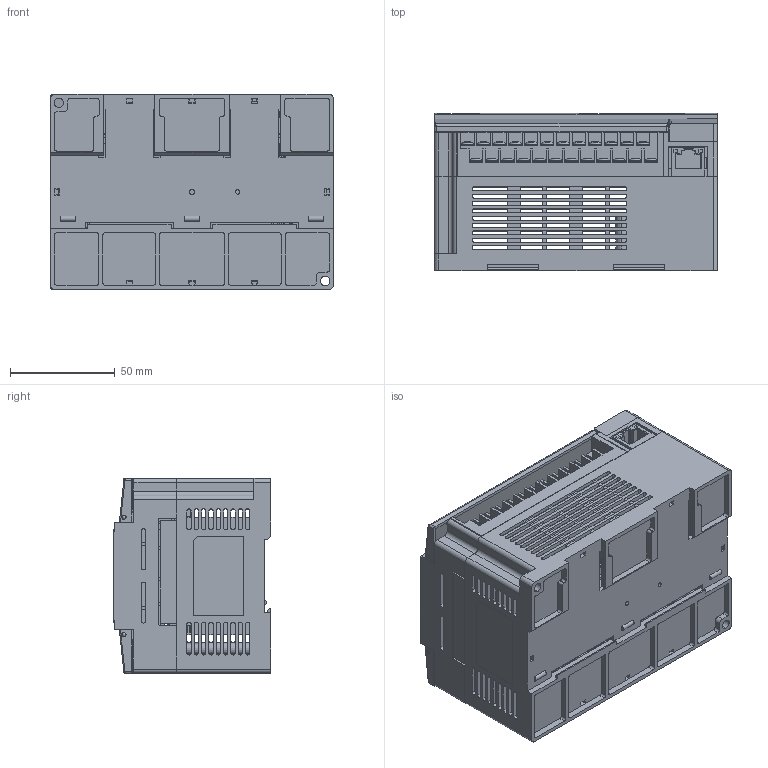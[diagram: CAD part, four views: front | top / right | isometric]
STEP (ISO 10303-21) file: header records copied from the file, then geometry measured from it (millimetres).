
FILE_DESCRIPTION (( 'STEP AP203' ), '1' );
FILE_NAME ('CM3-SB32MDTF(MDCF)(MDRF).STEP', '2025-07-16T08:26:52', ( '' ), ( '' ), 'SwSTEP 2.0', 'SolidWorks 2024', '' );
FILE_SCHEMA (( 'CONFIG_CONTROL_DESIGN' ));
Products named in the file (1): CM3-SB32MDTF(MDCF)(MDRF)
Bounding box: 135 x 75.16 x 93.45 mm (x, y, z)
Volume: 161532.5 mm3; surface area: 164309.9 mm2
Topology: 1 solids, 4 shells, 5332 faces, 14696 edges, 9476 vertices
Faces by surface type: plane 4114, cylinder 878, torus 203, sphere 108, bspline 19, cone 10
Entity records: 169859 total; most frequent: CARTESIAN_POINT 32221, ORIENTED_EDGE 29342, DIRECTION 27510, EDGE_CURVE 14671, VECTOR 11596, LINE 11596, VERTEX_POINT 9466, AXIS2_PLACEMENT_3D 7957
